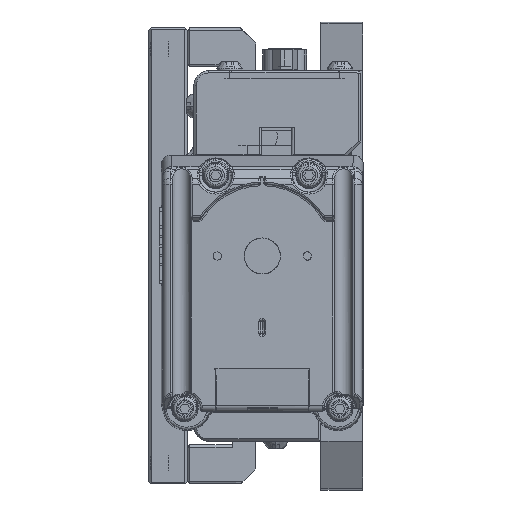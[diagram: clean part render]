
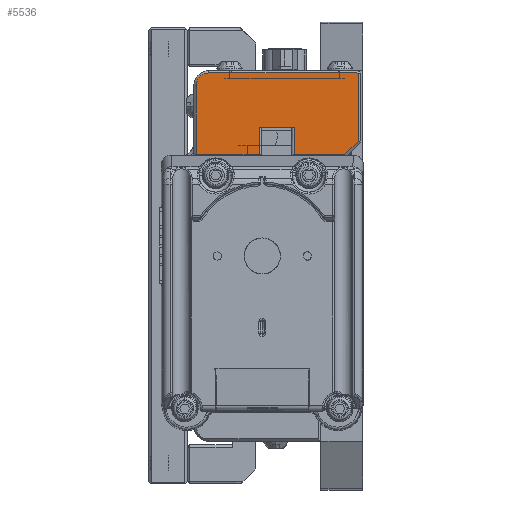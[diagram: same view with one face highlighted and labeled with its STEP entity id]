
A CAD part, left-side view. The second image highlights one B-rep face of the part: STEP entity #5536.
In plain terms, the highlighted planar face has unit normal (-1, 0, 0).
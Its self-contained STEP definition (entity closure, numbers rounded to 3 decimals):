
#1830 = VERTEX_POINT ( 'NONE', #127538 ) ;
#3766 = LINE ( 'NONE', #128751, #56466 ) ;
#5536 = ADVANCED_FACE ( 'NONE', ( #128707 ), #6413, .T. ) ;
#5987 = DIRECTION ( 'NONE',  ( 0., 0., 1. ) ) ;
#6413 = PLANE ( 'NONE',  #125051 ) ;
#7811 = CARTESIAN_POINT ( 'NONE',  ( -73.66, 35.763, 78.486 ) ) ;
#8773 = DIRECTION ( 'NONE',  ( 0., -1., 0. ) ) ;
#9910 = CARTESIAN_POINT ( 'NONE',  ( -73.66, 35.255, 75.311 ) ) ;
#10414 = DIRECTION ( 'NONE',  ( 0., -1., 0. ) ) ;
#12575 = DIRECTION ( 'NONE',  ( 0., 0., 1. ) ) ;
#14983 = VECTOR ( 'NONE', #10414, 1000. ) ;
#15793 = DIRECTION ( 'NONE',  ( -1., 0., 0. ) ) ;
#16907 = CARTESIAN_POINT ( 'NONE',  ( -73.66, 35.763, 60.706 ) ) ;
#17915 = CARTESIAN_POINT ( 'NONE',  ( -73.66, 21.92, 60.706 ) ) ;
#18115 = LINE ( 'NONE', #59760, #14983 ) ;
#19662 = LINE ( 'NONE', #125667, #92932 ) ;
#20254 = CARTESIAN_POINT ( 'NONE',  ( -73.66, 35.255, 78.486 ) ) ;
#23820 = CARTESIAN_POINT ( 'NONE',  ( -73.66, 35.763, 77.978 ) ) ;
#25921 = CARTESIAN_POINT ( 'NONE',  ( -73.66, 0.965, 77.978 ) ) ;
#30392 = LINE ( 'NONE', #16907, #80118 ) ;
#31156 = CARTESIAN_POINT ( 'NONE',  ( -73.66, 0.965, 78.486 ) ) ;
#36507 = DIRECTION ( 'NONE',  ( 1., 0., 0. ) ) ;
#41122 = DIRECTION ( 'NONE',  ( 0., 0., 1. ) ) ;
#42088 = CARTESIAN_POINT ( 'NONE',  ( -73.66, 21.92, 78.486 ) ) ;
#46844 = DIRECTION ( 'NONE',  ( 0., -1., 0. ) ) ;
#51151 = VERTEX_POINT ( 'NONE', #113005 ) ;
#52967 = CARTESIAN_POINT ( 'NONE',  ( -73.66, 35.763, 60.706 ) ) ;
#53806 = VECTOR ( 'NONE', #41122, 1000. ) ;
#56466 = VECTOR ( 'NONE', #68573, 1000. ) ;
#56876 = LINE ( 'NONE', #31156, #53806 ) ;
#59760 = CARTESIAN_POINT ( 'NONE',  ( -73.66, 35.763, 66.548 ) ) ;
#65127 = VERTEX_POINT ( 'NONE', #9910 ) ;
#68573 = DIRECTION ( 'NONE',  ( 0., -0.707, 0.707 ) ) ;
#70955 = AXIS2_PLACEMENT_3D ( 'NONE', #96275, #36507, #106322 ) ;
#71419 = CARTESIAN_POINT ( 'NONE',  ( -73.66, 0.965, 63.583 ) ) ;
#72180 = VERTEX_POINT ( 'NONE', #25921 ) ;
#73236 = DIRECTION ( 'NONE',  ( 0., 1., 0. ) ) ;
#73926 = ORIENTED_EDGE ( 'NONE', *, *, #101770, .T. ) ;
#74706 = ORIENTED_EDGE ( 'NONE', *, *, #85177, .T. ) ;
#75404 = DIRECTION ( 'NONE',  ( 0., 0., -1. ) ) ;
#76097 = VERTEX_POINT ( 'NONE', #94876 ) ;
#77785 = CIRCLE ( 'NONE', #70955, 2.667 ) ;
#77844 = ORIENTED_EDGE ( 'NONE', *, *, #79544, .T. ) ;
#77870 = VERTEX_POINT ( 'NONE', #124978 ) ;
#77964 = ORIENTED_EDGE ( 'NONE', *, *, #80942, .T. ) ;
#79544 = EDGE_CURVE ( 'NONE', #77870, #89328, #18115, .T. ) ;
#80118 = VECTOR ( 'NONE', #46844, 1000. ) ;
#80942 = EDGE_CURVE ( 'NONE', #89328, #76097, #19662, .T. ) ;
#81710 = EDGE_CURVE ( 'NONE', #76097, #87526, #30392, .T. ) ;
#82683 = EDGE_CURVE ( 'NONE', #87526, #97817, #3766, .T. ) ;
#84010 = EDGE_CURVE ( 'NONE', #97817, #72180, #56876, .T. ) ;
#85177 = EDGE_CURVE ( 'NONE', #101098, #77870, #113226, .T. ) ;
#86332 = VECTOR ( 'NONE', #12575, 1000. ) ;
#87382 = ORIENTED_EDGE ( 'NONE', *, *, #81710, .T. ) ;
#87526 = VERTEX_POINT ( 'NONE', #95834 ) ;
#88138 = CARTESIAN_POINT ( 'NONE',  ( -73.66, 14.554, 66.548 ) ) ;
#88261 = ORIENTED_EDGE ( 'NONE', *, *, #82683, .T. ) ;
#89328 = VERTEX_POINT ( 'NONE', #88138 ) ;
#90819 = ORIENTED_EDGE ( 'NONE', *, *, #84010, .T. ) ;
#91442 = ORIENTED_EDGE ( 'NONE', *, *, #118638, .T. ) ;
#92932 = VECTOR ( 'NONE', #75404, 1000. ) ;
#93255 = LINE ( 'NONE', #23820, #99570 ) ;
#94692 = ORIENTED_EDGE ( 'NONE', *, *, #122529, .F. ) ;
#94876 = CARTESIAN_POINT ( 'NONE',  ( -73.66, 14.554, 60.706 ) ) ;
#95834 = CARTESIAN_POINT ( 'NONE',  ( -73.66, 3.843, 60.706 ) ) ;
#96275 = CARTESIAN_POINT ( 'NONE',  ( -73.66, 32.588, 75.311 ) ) ;
#97817 = VERTEX_POINT ( 'NONE', #71419 ) ;
#99570 = VECTOR ( 'NONE', #73236, 1000. ) ;
#100042 = DIRECTION ( 'NONE',  ( 0., 0., 1. ) ) ;
#101098 = VERTEX_POINT ( 'NONE', #17915 ) ;
#101770 = EDGE_CURVE ( 'NONE', #1830, #101098, #107307, .T. ) ;
#101778 = ORIENTED_EDGE ( 'NONE', *, *, #123860, .F. ) ;
#106322 = DIRECTION ( 'NONE',  ( 0., 0., -1. ) ) ;
#107307 = LINE ( 'NONE', #52967, #110537 ) ;
#107521 = VECTOR ( 'NONE', #100042, 1000. ) ;
#110537 = VECTOR ( 'NONE', #8773, 1000. ) ;
#110771 = LINE ( 'NONE', #20254, #107521 ) ;
#113005 = CARTESIAN_POINT ( 'NONE',  ( -73.66, 32.588, 77.978 ) ) ;
#113226 = LINE ( 'NONE', #42088, #86332 ) ;
#118046 = EDGE_LOOP ( 'NONE', ( #73926, #74706, #77844, #77964, #87382, #88261, #90819, #91442, #94692, #101778 ) ) ;
#118638 = EDGE_CURVE ( 'NONE', #72180, #51151, #93255, .T. ) ;
#122529 = EDGE_CURVE ( 'NONE', #65127, #51151, #77785, .T. ) ;
#123860 = EDGE_CURVE ( 'NONE', #1830, #65127, #110771, .T. ) ;
#124978 = CARTESIAN_POINT ( 'NONE',  ( -73.66, 21.92, 66.548 ) ) ;
#125051 = AXIS2_PLACEMENT_3D ( 'NONE', #7811, #15793, #5987 ) ;
#125667 = CARTESIAN_POINT ( 'NONE',  ( -73.66, 14.554, 78.486 ) ) ;
#127538 = CARTESIAN_POINT ( 'NONE',  ( -73.66, 35.255, 60.706 ) ) ;
#128707 = FACE_OUTER_BOUND ( 'NONE', #118046, .T. ) ;
#128751 = CARTESIAN_POINT ( 'NONE',  ( -73.66, 3.843, 60.706 ) ) ;
